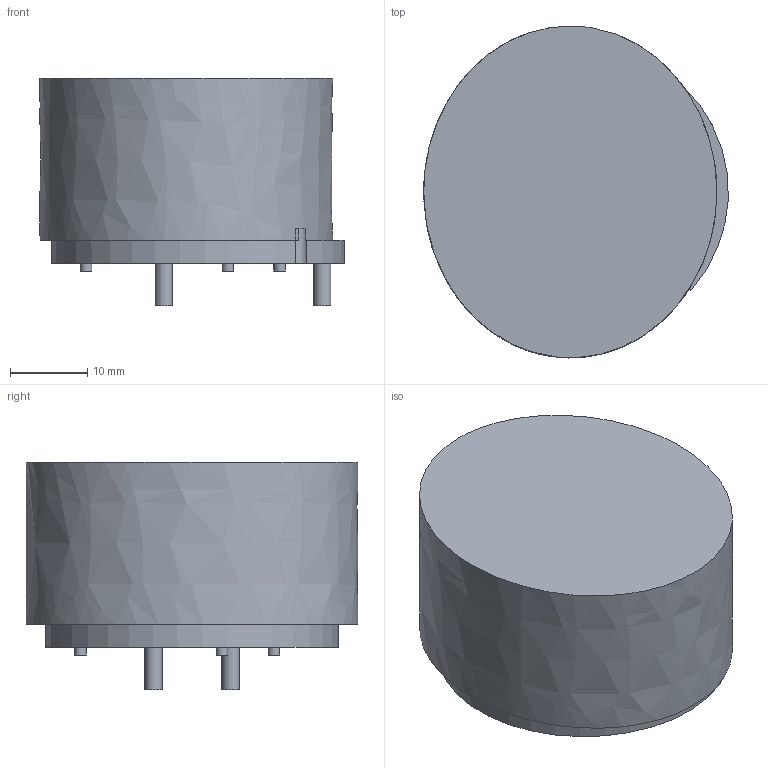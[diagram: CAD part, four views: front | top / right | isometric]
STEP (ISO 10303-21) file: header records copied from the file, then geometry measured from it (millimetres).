
FILE_DESCRIPTION(/* description */ (''),/* implementation_level */ '2;1');
FILE_NAME(/* name */ 'F:\Done\2016\多产品3D模拟\终版\新建文件夹\6123-X226\6123-X226 3D Model.stp',/* time_stamp */ '2016-07-12T14:28:44+08:00',/* author */ ('CN000562'),/* organization */ (''),/* preprocessor_version */ 'ST-DEVELOPER v16.5',/* originating_system */ 'Autodesk Inventor 2017',/* authorisation */ '');
FILE_SCHEMA (('AUTOMOTIVE_DESIGN { 1 0 10303 214 3 1 1 }'));
Length unit declared in the file: millimetre
Products named in the file (1): 6123-X316
Bounding box: 39.48 x 43 x 29.5 mm (x, y, z)
Volume: 30439.2 mm3; surface area: 5833 mm2
Topology: 1 solids, 1 shells, 23 faces, 41 edges, 27 vertices
Faces by surface type: plane 12, cylinder 10, bspline 1
Full cylindrical faces by diameter (mm): 1.5 x3, 2.24 x4
Entity records: 582 total; most frequent: DIRECTION 107, CARTESIAN_POINT 103, ORIENTED_EDGE 68, AXIS2_PLACEMENT_3D 51, EDGE_LOOP 37, EDGE_CURVE 34, VERTEX_POINT 27, FACE_OUTER_BOUND 23
